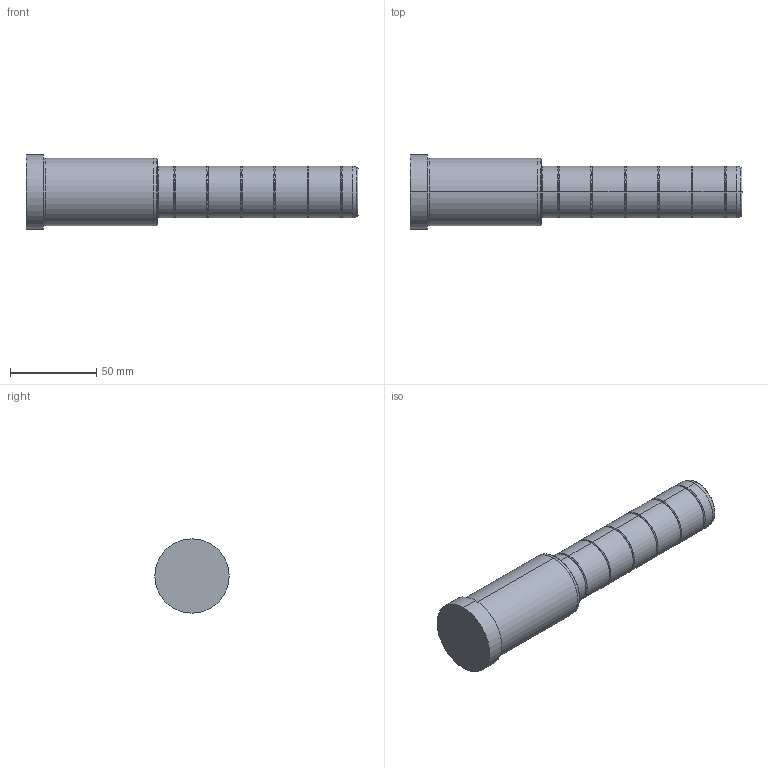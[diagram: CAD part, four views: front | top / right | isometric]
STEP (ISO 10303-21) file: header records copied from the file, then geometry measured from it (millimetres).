
FILE_DESCRIPTION( ( 'STEP AP203' ), '1' );
FILE_NAME( 'C:/Projects/D02 - 30x76x116.step', '2002-12-31T22:44:41', ( ' ' ), ( ' ' ), 'XStep 1.0', ' ', ' ' );
FILE_SCHEMA( ( 'CONFIG_CONTROL_DESIGN' ) );
Length unit declared in the file: metre
Products named in the file (1): 1
Bounding box: 192 x 43 x 43 mm (x, y, z)
Volume: 175087.2 mm3; surface area: 23436.5 mm2
Topology: 1 solids, 1 shells, 60 faces, 118 edges, 64 vertices
Faces by surface type: bspline 34, revolution 26
Entity records: 1919 total; most frequent: CARTESIAN_POINT 817, ORIENTED_EDGE 236, DIRECTION 182, EDGE_CURVE 118, AXIS2_PLACEMENT_3D 65, EDGE_LOOP 64, VERTEX_POINT 64, CIRCLE 64
